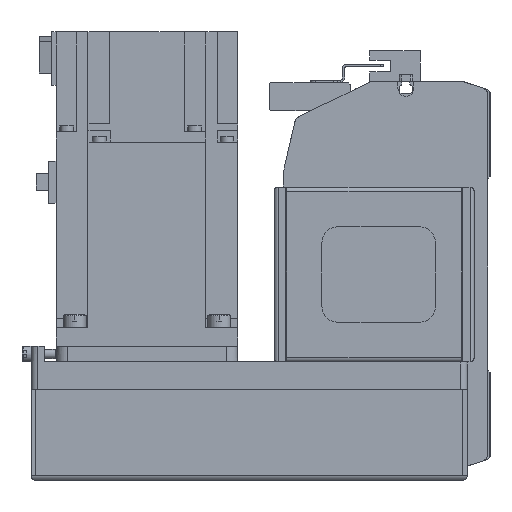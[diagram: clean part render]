
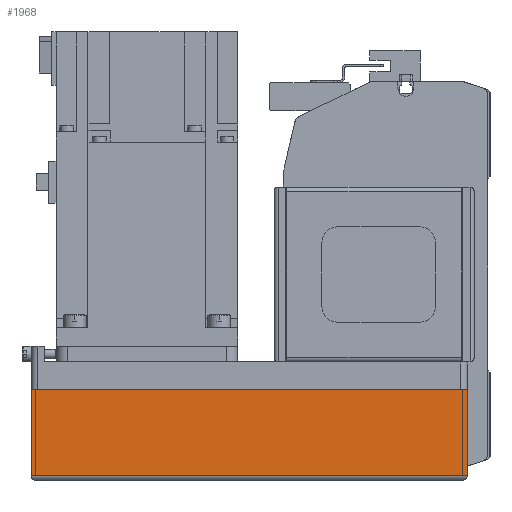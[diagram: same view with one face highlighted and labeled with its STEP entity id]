
A CAD part, left-side view. The second image highlights one B-rep face of the part: STEP entity #1968.
In plain terms, the highlighted planar face has unit normal (-1, 0, 0) as drawn and (0, -1, 0) by its records, which use the part's own axes.
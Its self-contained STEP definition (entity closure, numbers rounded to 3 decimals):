
#1968 = ADVANCED_FACE( '', ( #4501 ), #4502, .T. );
#4501 = FACE_OUTER_BOUND( '', #7623, .T. );
#4502 = PLANE( '', #7624 );
#7623 = EDGE_LOOP( '', ( #13256, #13257, #13258, #13259 ) );
#7624 = AXIS2_PLACEMENT_3D( '', #13260, #13261, #13262 );
#13256 = ORIENTED_EDGE( '', *, *, #18176, .F. );
#13257 = ORIENTED_EDGE( '', *, *, #20086, .F. );
#13258 = ORIENTED_EDGE( '', *, *, #20087, .T. );
#13259 = ORIENTED_EDGE( '', *, *, #20088, .T. );
#13260 = CARTESIAN_POINT( '', ( -192., -40., -12.1 ) );
#13261 = DIRECTION( '', ( 0., -1., 0. ) );
#13262 = DIRECTION( '', ( 0., 0., -1. ) );
#18176 = EDGE_CURVE( '', #21718, #21502, #21719, .T. );
#20086 = EDGE_CURVE( '', #24812, #21718, #24813, .T. );
#20087 = EDGE_CURVE( '', #24812, #23272, #24814, .T. );
#20088 = EDGE_CURVE( '', #23272, #21502, #24815, .T. );
#21502 = VERTEX_POINT( '', #26552 );
#21718 = VERTEX_POINT( '', #26896 );
#21719 = LINE( '', #26897, #26898 );
#23272 = VERTEX_POINT( '', #29198 );
#24812 = VERTEX_POINT( '', #31298 );
#24813 = LINE( '', #31299, #31300 );
#24814 = LINE( '', #31301, #31302 );
#24815 = LINE( '', #31303, #31304 );
#26552 = CARTESIAN_POINT( '', ( 0., -40., -50. ) );
#26896 = CARTESIAN_POINT( '', ( 0., -40., -12.1 ) );
#26897 = CARTESIAN_POINT( '', ( 0., -40., -12.1 ) );
#26898 = VECTOR( '', #33706, 1000. );
#29198 = CARTESIAN_POINT( '', ( -192., -40., -50. ) );
#31298 = CARTESIAN_POINT( '', ( -192., -40., -12.1 ) );
#31299 = CARTESIAN_POINT( '', ( -192., -40., -12.1 ) );
#31300 = VECTOR( '', #36223, 1000. );
#31301 = CARTESIAN_POINT( '', ( -192., -40., -12.1 ) );
#31302 = VECTOR( '', #36224, 1000. );
#31303 = CARTESIAN_POINT( '', ( -192., -40., -50. ) );
#31304 = VECTOR( '', #36225, 1000. );
#33706 = DIRECTION( '', ( 0., 0., -1. ) );
#36223 = DIRECTION( '', ( 1., 0., 0. ) );
#36224 = DIRECTION( '', ( 0., 0., -1. ) );
#36225 = DIRECTION( '', ( 1., 0., 0. ) );
